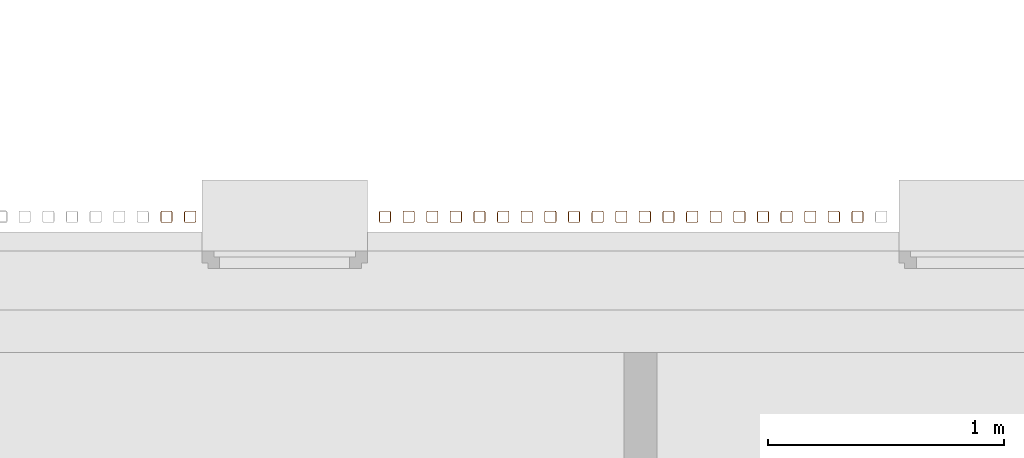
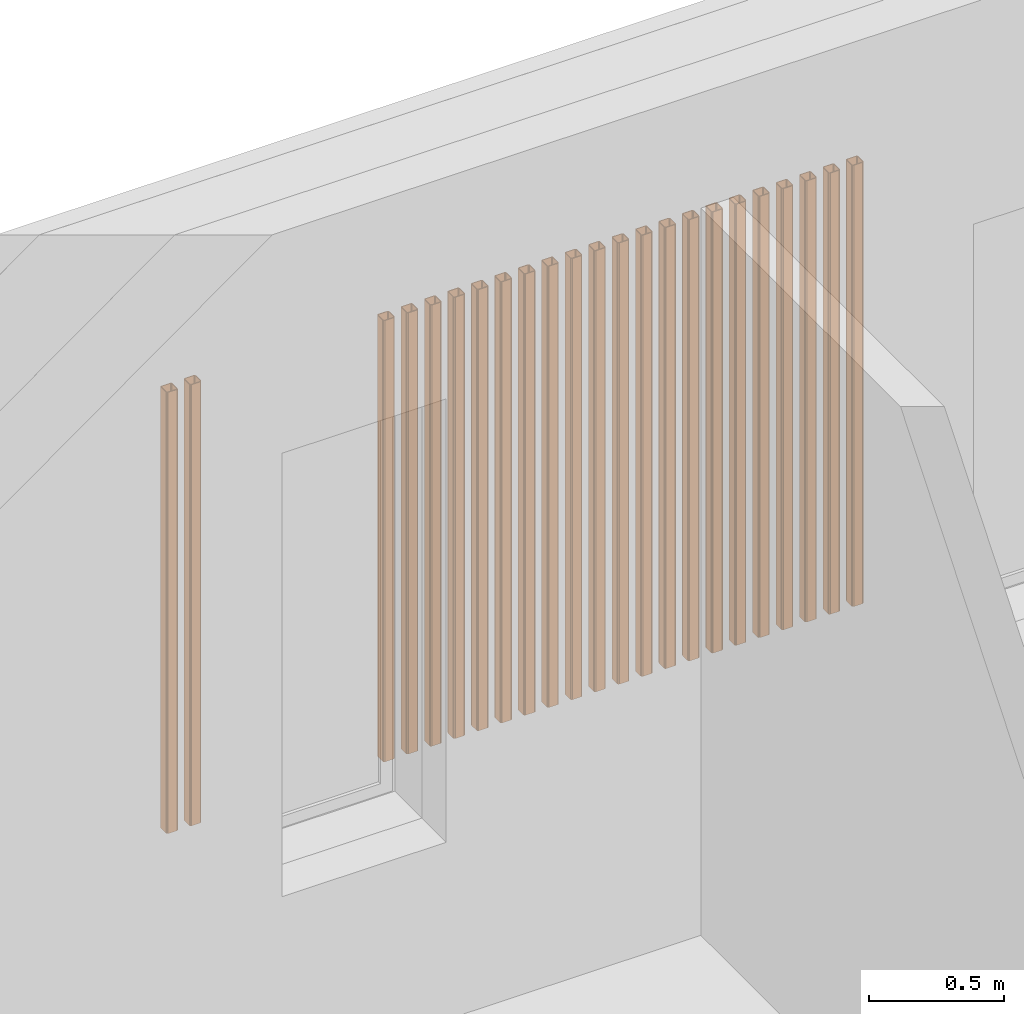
# One storey, part 73 of 112: 23 proxies.
"""IFC2X3 building model written with IfcOpenShell, lengths in millimetres."""

from ifc_helpers import new_model, entity, si_unit, converted_unit, derived_unit, money_unit, direction, frame, origin_with_axes, place, context, subcontext, project, spatial, faceted_brep, source, transform, mapped, material, type_object, element, save


model = new_model("IFC2X3")

# Units and contexts
model_context = context("Model", 3, precision=0.01, world=origin_with_axes(), true_north=direction((0.0, 1.0)))
body_context = subcontext(model_context, "Body", "Model", "MODEL_VIEW")
ifc_project = project(units=[si_unit("LENGTHUNIT", "METRE", prefix="MILLI"), si_unit("AREAUNIT", "SQUARE_METRE"), si_unit("VOLUMEUNIT", "CUBIC_METRE"), converted_unit("PLANEANGLEUNIT", "DEGREE", entity("IfcPlaneAngleMeasure", 0.0174532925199), si_unit("PLANEANGLEUNIT", "RADIAN"), dimensions=[0, 0, 0, 0, 0, 0, 0]), si_unit("SOLIDANGLEUNIT", "STERADIAN"), money_unit("EUR"), converted_unit("TIMEUNIT", "Year", entity("IfcTimeMeasure", 31556926.0), si_unit("TIMEUNIT", "SECOND"), dimensions=[0, 0, 1, 0, 0, 0, 0]), si_unit("MASSUNIT", "GRAM", prefix="KILO"), si_unit("THERMODYNAMICTEMPERATUREUNIT", "DEGREE_CELSIUS"), si_unit("LUMINOUSINTENSITYUNIT", "LUMEN"), si_unit("ENERGYUNIT", "JOULE", prefix="MEGA"), derived_unit("THERMALCONDUCTANCEUNIT", [(si_unit("POWERUNIT", "WATT"), 1), (si_unit("LENGTHUNIT", "METRE"), -1), (si_unit("THERMODYNAMICTEMPERATUREUNIT", "KELVIN"), -1)]), derived_unit("SPECIFICHEATCAPACITYUNIT", [(si_unit("ENERGYUNIT", "JOULE"), 1), (si_unit("MASSUNIT", "GRAM", prefix="KILO"), -1), (si_unit("THERMODYNAMICTEMPERATUREUNIT", "KELVIN"), -1)]), derived_unit("MASSDENSITYUNIT", [(si_unit("MASSUNIT", "GRAM", prefix="KILO"), 1), (si_unit("VOLUMEUNIT", "CUBIC_METRE"), -1)])], contexts=[model_context])

# Site, building, storey
site_placement = place(None, origin_with_axes())
site = spatial("IfcSite", under=ifc_project, at=site_placement, Name="Politse- ja Piirivalveameti ning Päästeameti ühishoone", CompositionType="ELEMENT")
building_placement = place(site_placement, origin_with_axes())
building = spatial("IfcBuilding", under=site, at=building_placement, Name="Politse- ja Piirivalveameti ning Päästeameti ühishoone", CompositionType="ELEMENT")
storey_placement = place(building_placement, origin_with_axes())
storey = spatial("IfcBuildingStorey", under=building, at=storey_placement, Name="Esimene korrus", CompositionType="ELEMENT", Elevation=0.0)

# Proxies
ifc_material = material(Name="ET-05_Teras")
building_element_proxy_type = type_object("IfcBuildingElementProxyType", Name="SHS Cold-Formed Column 23", PredefinedType="NOTDEFINED")
shared_shape = source(origin_with_axes(), body_context, "Body", "Brep", [
    faceted_brep([(19.0, -25.0, 0.0), (19.0, -25.0, 1990.0), (-19.0, -25.0, 1990.0), (-19.0, -25.0, 0.0), (23.2426406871, -23.2426406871, 0.0), (23.2426406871, -23.2426406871, 1990.0), (25.0, -19.0, 1990.0), (25.0, 19.0, 1990.0), (23.2426406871, 23.2426406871, 1990.0), (19.0, 25.0, 1990.0), (-19.0, 25.0, 1990.0), (-23.2426406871, 23.2426406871, 1990.0), (-25.0, 19.0, 1990.0), (-25.0, -19.0, 1990.0), (-23.2426406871, -23.2426406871, 1990.0), (19.0, -22.0, 1990.0), (-19.0, -22.0, 1990.0), (-21.1213203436, -21.1213203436, 1990.0), (-22.0, -19.0, 1990.0), (-22.0, 19.0, 1990.0), (-21.1213203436, 21.1213203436, 1990.0), (-19.0, 22.0, 1990.0), (19.0, 22.0, 1990.0), (21.1213203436, 21.1213203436, 1990.0), (22.0, 19.0, 1990.0), (22.0, -19.0, 1990.0), (21.1213203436, -21.1213203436, 1990.0), (-23.2426406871, -23.2426406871, 0.0), (-25.0, -19.0, 0.0), (-25.0, 19.0, 0.0), (-23.2426406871, 23.2426406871, 0.0), (-19.0, 25.0, 0.0), (19.0, 25.0, 0.0), (23.2426406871, 23.2426406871, 0.0), (25.0, 19.0, 0.0), (25.0, -19.0, 0.0), (19.0, -22.0, 0.0), (21.1213203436, -21.1213203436, 0.0), (22.0, -19.0, 0.0), (22.0, 19.0, 0.0), (21.1213203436, 21.1213203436, 0.0), (19.0, 22.0, 0.0), (-19.0, 22.0, 0.0), (-21.1213203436, 21.1213203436, 0.0), (-22.0, 19.0, 0.0), (-22.0, -19.0, 0.0), (-21.1213203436, -21.1213203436, 0.0), (-19.0, -22.0, 0.0)], [[[0, 1, 2, 3]], [[4, 5, 1, 0]], [[1, 5, 6, 7, 8, 9, 10, 11, 12, 13, 14, 2], [15, 16, 17, 18, 19, 20, 21, 22, 23, 24, 25, 26]], [[3, 2, 14, 27]], [[0, 3, 27, 28, 29, 30, 31, 32, 33, 34, 35, 4], [36, 37, 38, 39, 40, 41, 42, 43, 44, 45, 46, 47]], [[35, 6, 5, 4]], [[34, 7, 6, 35]], [[33, 8, 7, 34]], [[32, 9, 8, 33]], [[31, 10, 9, 32]], [[30, 11, 10, 31]], [[29, 12, 11, 30]], [[28, 13, 12, 29]], [[27, 14, 13, 28]], [[47, 16, 15, 36]], [[46, 17, 16, 47]], [[45, 18, 17, 46]], [[44, 19, 18, 45]], [[43, 20, 19, 44]], [[42, 21, 20, 43]], [[41, 22, 21, 42]], [[40, 23, 22, 41]], [[39, 24, 23, 40]], [[38, 25, 24, 39]], [[37, 26, 25, 38]], [[36, 15, 26, 37]]]),
])
for number, where, z_axis, x_axis in (
    (1, (48409.3113758, 21574.5959735, 810.0), (0.0, 0.0, 1.0), (1.30049800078e-07, -1.0, 0.0)),
    (2, (47909.3113758, 21574.5959084, 810.0), (0.0, 0.0, 1.0), (1.30049800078e-07, -1.0, 0.0)),
    (3, (48009.3113758, 21574.5959214, 810.0), (0.0, 0.0, 1.0), (1.30049800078e-07, -1.0, 0.0)),
    (4, (48109.3113758, 21574.5959344, 810.0), (0.0, 0.0, 1.0), (1.30049800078e-07, -1.0, 0.0)),
    (5, (48209.3113758, 21574.5959474, 810.0), (0.0, 0.0, 1.0), (1.30049800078e-07, -1.0, 0.0)),
    (6, (48309.3113758, 21574.5959604, 810.0), (0.0, 0.0, 1.0), (1.30049800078e-07, -1.0, 0.0)),
    (7, (47409.3113758, 21574.5958434, 810.0), (0.0, 0.0, 1.0), (1.30049800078e-07, -1.0, 0.0)),
    (8, (47509.3113758, 21574.5958564, 810.0), (0.0, 0.0, 1.0), (1.30049800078e-07, -1.0, 0.0)),
    (9, (47609.3113758, 21574.5958694, 810.0), (0.0, 0.0, 1.0), (1.30049800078e-07, -1.0, 0.0)),
    (10, (47709.3113758, 21574.5958824, 810.0), (0.0, 0.0, 1.0), (1.30049800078e-07, -1.0, 0.0)),
    (11, (47809.3113758, 21574.5958954, 810.0), (0.0, 0.0, 1.0), (1.30049800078e-07, -1.0, 0.0)),
    (12, (47109.3113758, 21574.5958044, 810.0), (0.0, 0.0, 1.0), (1.30049800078e-07, -1.0, 0.0)),
    (13, (47209.3113758, 21574.5958174, 810.0), (0.0, 0.0, 1.0), (1.30049800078e-07, -1.0, 0.0)),
    (14, (47309.3113758, 21574.5958304, 810.0), (0.0, 0.0, 1.0), (1.30049800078e-07, -1.0, 0.0)),
    (15, (49109.3113758, 21574.5960645, 810.0), (0.0, 0.0, 1.0), (1.30049800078e-07, -1.0, 0.0)),
    (16, (48609.3113758, 21574.5959995, 810.0), (0.0, 0.0, 1.0), (1.30049800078e-07, -1.0, 0.0)),
    (17, (48709.3113758, 21574.5960125, 810.0), (0.0, 0.0, 1.0), (1.30049800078e-07, -1.0, 0.0)),
    (18, (48809.3113758, 21574.5960255, 810.0), (0.0, 0.0, 1.0), (1.30049800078e-07, -1.0, 0.0)),
    (19, (48909.3113758, 21574.5960385, 810.0), (0.0, 0.0, 1.0), (1.30049800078e-07, -1.0, 0.0)),
    (20, (49009.3113758, 21574.5960515, 810.0), (0.0, 0.0, 1.0), (1.30049800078e-07, -1.0, 0.0)),
    (21, (48509.3113758, 21574.5959865, 810.0), (0.0, 0.0, 1.0), (1.30049800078e-07, -1.0, 0.0)),
    (22, (46284.1843136, 21574.5960645, 810.0), (0.0, 0.0, 1.0), (1.30049800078e-07, -1.0, 0.0)),
    (23, (46184.1843136, 21574.5960515, 810.0), (0.0, 0.0, 1.0), (1.30049800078e-07, -1.0, 0.0)),
):
    element("IfcBuildingElementProxy", number, at=place(storey_placement, frame(where, z_axis=z_axis, x_axis=x_axis)), inside=storey, type_object=building_element_proxy_type, material=ifc_material, Name="Fassaadiribid", context=body_context, shape_type="MappedRepresentation", body=[
        mapped(shared_shape, transform((0.0, 0.0, 0.0))),
    ])

save(model, "model.ifc")
